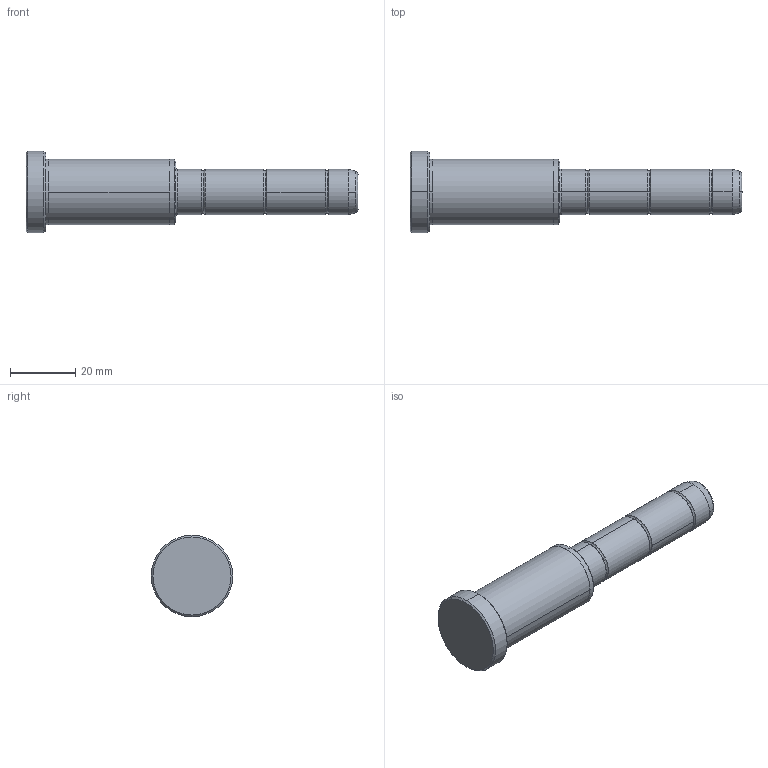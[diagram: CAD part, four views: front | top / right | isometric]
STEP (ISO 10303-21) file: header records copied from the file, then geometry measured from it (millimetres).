
FILE_DESCRIPTION (( 'STEP AP214' ), '1' );
FILE_NAME ('D02_14x46x56.step', '2011-12-25T20:58:37', ( 'Dell' ), ( '' ), 'SwSTEP 2.0', 'SolidWorks 2010', '' );
FILE_SCHEMA (( 'AUTOMOTIVE_DESIGN' ));
Length unit declared in the file: millimetre
Products named in the file (1): D02_14x46x56
Bounding box: 102 x 25 x 25 mm (x, y, z)
Volume: 24025.5 mm3; surface area: 6378.4 mm2
Topology: 1 solids, 1 shells, 48 faces, 104 edges, 62 vertices
Faces by surface type: cylinder 16, bspline 16, cone 10, plane 6
Entity records: 1520 total; most frequent: CARTESIAN_POINT 519, ORIENTED_EDGE 208, DIRECTION 206, EDGE_CURVE 104, AXIS2_PLACEMENT_3D 91, VERTEX_POINT 62, CIRCLE 58, EDGE_LOOP 52
